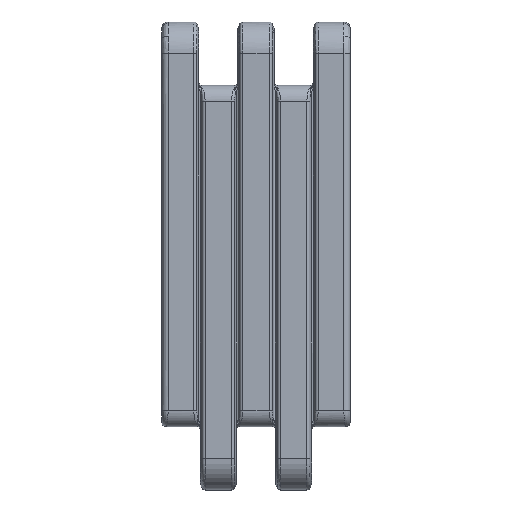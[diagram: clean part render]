
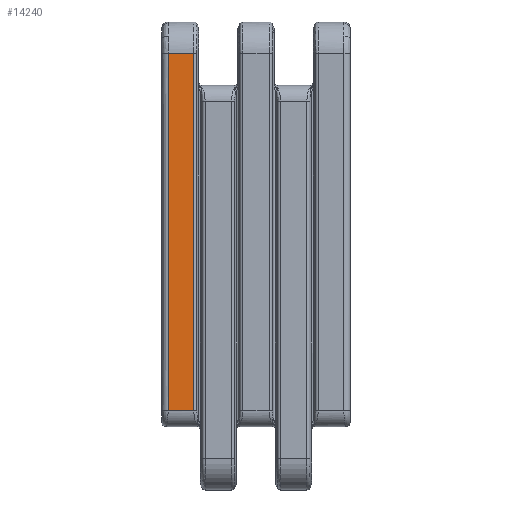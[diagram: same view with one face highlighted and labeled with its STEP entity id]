
A CAD part, front view. The second image highlights one B-rep face of the part: STEP entity #14240.
In plain terms, the highlighted planar face has unit normal (0, -1, 0).
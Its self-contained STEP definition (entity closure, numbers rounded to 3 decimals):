
#506 = EDGE_CURVE ( 'NONE', #19339, #2023, #14818, .T. ) ;
#658 = EDGE_CURVE ( 'NONE', #21123, #6081, #10513, .T. ) ;
#943 = AXIS2_PLACEMENT_3D ( 'NONE', #13290, #5577, #13981 ) ;
#1001 = DIRECTION ( 'NONE',  ( -1., 0., 0. ) ) ;
#1211 = EDGE_CURVE ( 'NONE', #19339, #6081, #21607, .T. ) ;
#1377 = ORIENTED_EDGE ( 'NONE', *, *, #658, .T. ) ;
#1435 = EDGE_CURVE ( 'NONE', #2023, #21123, #18466, .T. ) ;
#2023 = VERTEX_POINT ( 'NONE', #8538 ) ;
#4749 = CARTESIAN_POINT ( 'NONE',  ( 1., 0., -56.899 ) ) ;
#5454 = CARTESIAN_POINT ( 'NONE',  ( 5.107, 0., 0. ) ) ;
#5577 = DIRECTION ( 'NONE',  ( 0., 1., 0. ) ) ;
#6081 = VERTEX_POINT ( 'NONE', #12019 ) ;
#7279 = FACE_OUTER_BOUND ( 'NONE', #16842, .T. ) ;
#7693 = CARTESIAN_POINT ( 'NONE',  ( 5.417, 0., 0. ) ) ;
#8000 = VECTOR ( 'NONE', #1001, 1000. ) ;
#8538 = CARTESIAN_POINT ( 'NONE',  ( 5.107, 0., 0. ) ) ;
#9358 = CARTESIAN_POINT ( 'NONE',  ( 1., 0., 0. ) ) ;
#10513 = B_SPLINE_CURVE_WITH_KNOTS ( 'NONE', 3,
 ( #18053, #16512, #20018, #4749 ),
 .UNSPECIFIED., .F., .F.,
 ( 4, 4 ),
 ( 0., 0.057 ),
 .UNSPECIFIED. ) ;
#11441 = VECTOR ( 'NONE', #15260, 1000. ) ;
#11774 = CARTESIAN_POINT ( 'NONE',  ( 6.125, 0., -56.899 ) ) ;
#12019 = CARTESIAN_POINT ( 'NONE',  ( 1., 0., -56.899 ) ) ;
#12874 = PLANE ( 'NONE',  #943 ) ;
#13290 = CARTESIAN_POINT ( 'NONE',  ( 30., 0., 0. ) ) ;
#13981 = DIRECTION ( 'NONE',  ( 0., 0., 1. ) ) ;
#14164 = CARTESIAN_POINT ( 'NONE',  ( 5.107, 0., -56.899 ) ) ;
#14240 = ADVANCED_FACE ( 'NONE', ( #7279 ), #12874, .F. ) ;
#14818 = LINE ( 'NONE', #5454, #11441 ) ;
#14936 = ORIENTED_EDGE ( 'NONE', *, *, #506, .T. ) ;
#15260 = DIRECTION ( 'NONE',  ( 0., 0., 1. ) ) ;
#16454 = ORIENTED_EDGE ( 'NONE', *, *, #1435, .T. ) ;
#16512 = CARTESIAN_POINT ( 'NONE',  ( 1., 0., -18.966 ) ) ;
#16842 = EDGE_LOOP ( 'NONE', ( #16454, #1377, #17658, #14936 ) ) ;
#17166 = VECTOR ( 'NONE', #20081, 1000. ) ;
#17658 = ORIENTED_EDGE ( 'NONE', *, *, #1211, .F. ) ;
#18053 = CARTESIAN_POINT ( 'NONE',  ( 1., 0., 0. ) ) ;
#18466 = LINE ( 'NONE', #7693, #8000 ) ;
#19339 = VERTEX_POINT ( 'NONE', #14164 ) ;
#20018 = CARTESIAN_POINT ( 'NONE',  ( 1., 0., -37.933 ) ) ;
#20081 = DIRECTION ( 'NONE',  ( -1., 0., 0. ) ) ;
#21123 = VERTEX_POINT ( 'NONE', #9358 ) ;
#21607 = LINE ( 'NONE', #11774, #17166 ) ;
